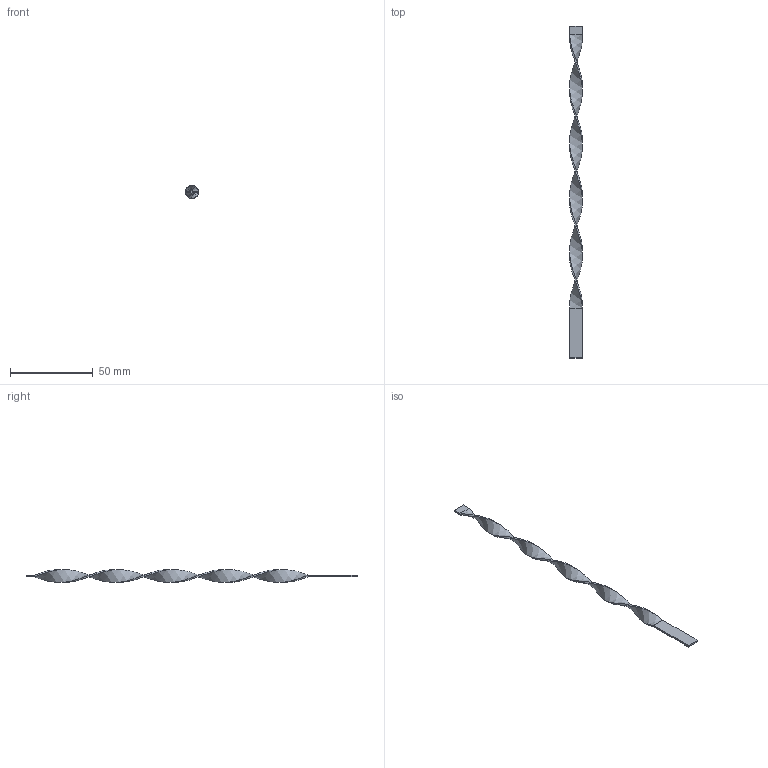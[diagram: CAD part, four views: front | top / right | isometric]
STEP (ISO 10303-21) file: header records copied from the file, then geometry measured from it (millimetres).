
FILE_DESCRIPTION (( 'STEP AP203' ), '1' );
FILE_NAME ('RLAS-8SMx200.STEP', '2015-12-10T13:33:58', ( 'Balzi' ), ( '' ), 'SwSTEP 2.0', 'SolidWorks 2015', '' );
FILE_SCHEMA (( 'CONFIG_CONTROL_DESIGN' ));
Length unit declared in the file: millimetre
Products named in the file (1): RLAS-8SMx200
Bounding box: 8.4 x 200 x 7.86 mm (x, y, z)
Volume: 1561.1 mm3; surface area: 3597.5 mm2
Topology: 1 solids, 1 shells, 22 faces, 52 edges, 32 vertices
Faces by surface type: plane 18, bspline 4
Entity records: 2469 total; most frequent: CARTESIAN_POINT 1923, ORIENTED_EDGE 104, DIRECTION 82, EDGE_CURVE 52, LINE 44, VECTOR 44, VERTEX_POINT 32, EDGE_LOOP 22
